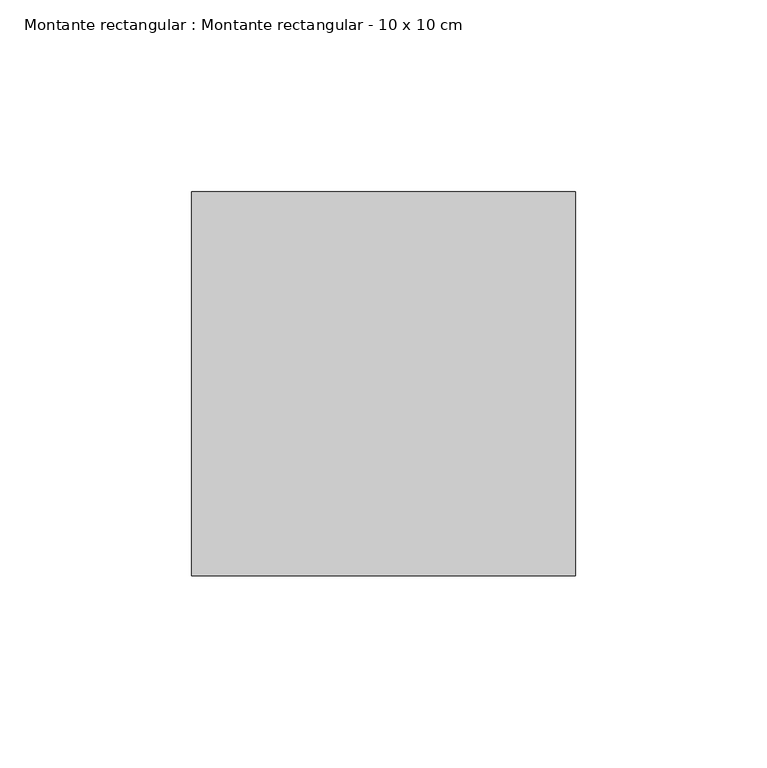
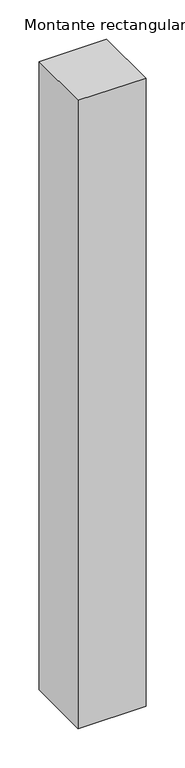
"""IFC4 building model written with IfcOpenShell, lengths in millimetres: member geometry, Montante rectangular : Montante rectangular - 10 x 10 cm."""

from ifc_helpers import new_model, si_unit, frame, origin, place, context, project, spatial, polyline, outline, extrude, source, transform, mapped, element, save


def montante_rectangular_montante_rectangular_10_x_10_cm_59fce455(model_context):
    return source(origin(), model_context, "Body", "SweptSolid", [
        extrude(outline(polyline([(0.0, -50.0), (-100.0, -50.0), (-100.0, 50.0), (0.0, 50.0), (0.0, -50.0)])), frame((0.0, 0.0, -980.0), z_axis=(0.0, 0.0, 1.0), x_axis=(1.0, 0.0, 0.0)), (0.0, 0.0, 1.0), 980.0),
    ])


if __name__ == "__main__":
    model = new_model("IFC4")
    model_context = context("Model", 3, world=origin())
    ifc_project = project(units=[si_unit("LENGTHUNIT", "METRE", prefix="MILLI")], contexts=[model_context])
    site = spatial("IfcSite", under=ifc_project)
    building = spatial("IfcBuilding", under=site)
    placement = place(None, origin())
    montante_rectangular_montante_rectangular_10_x_10_cm_shape = montante_rectangular_montante_rectangular_10_x_10_cm_59fce455(model_context)
    element("IfcMember", 1, ObjectType="Montante rectangular : Montante rectangular - 10 x 10 cm", at=placement, inside=building, context=model_context, shape_type="MappedRepresentation", body=[
        mapped(montante_rectangular_montante_rectangular_10_x_10_cm_shape, transform((0.0, 0.0, 0.0), x_axis=(1.0, 0.0, 0.0), y_axis=(0.0, 1.0, 0.0), z_axis=(0.0, 0.0, 1.0))),
    ])
    save(model, "model.ifc")
